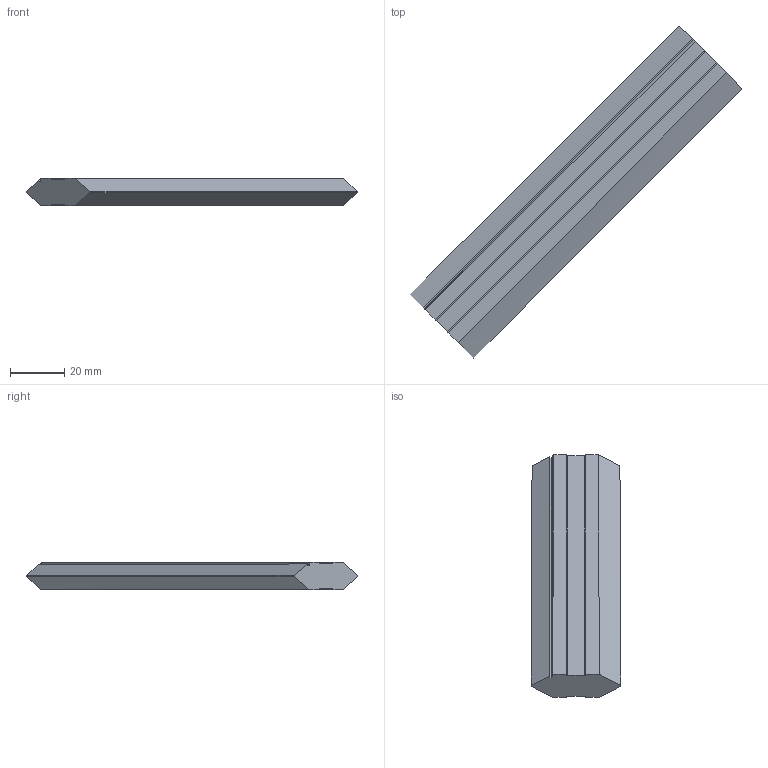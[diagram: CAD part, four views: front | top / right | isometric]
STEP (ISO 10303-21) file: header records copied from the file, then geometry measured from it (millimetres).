
FILE_DESCRIPTION(/* description */ ('STEP AP242 Edition 2','CAx-IF Rec.Pracs.---Representation and Presentation of Product Manufacturing Information (PMI)---4.0---2014-10-13','CAx-IF Rec.Pracs.---3D Tessellated Geometry---0.4---2014-09-14','2;1','CAx-IF Rec.Pracs.---User Defined Attributes---1.5---2016-08-15'),/* implementation_level */ '2;1');
FILE_NAME(/* name */ 'Part Studio 2 - Blade middle part 2',/* time_stamp */ '2026-02-06T19:17:58Z',/* author */ (''),/* organization */ (''),/* preprocessor_version */ 'ST-DEVELOPER v20',/* originating_system */ 'ONSHAPE BY PTC INC, 1.210',/* authorisation */ ' ');
FILE_SCHEMA (('AP242_MANAGED_MODEL_BASED_3D_ENGINEERING_MIM_LF { 1 0 10303 442 3 1 4 }'));
Length unit declared in the file: metre
Products named in the file (1): Blade middle part 2
Bounding box: 122.12 x 122.12 x 10.26 mm (x, y, z)
Volume: 16482.3 mm3; surface area: 18654.5 mm2
Topology: 1 solids, 1 shells, 40 faces, 111 edges, 74 vertices
Faces by surface type: plane 18, bspline 11, cylinder 11
Entity records: 1641 total; most frequent: CARTESIAN_POINT 681, ORIENTED_EDGE 222, DIRECTION 151, EDGE_CURVE 111, VERTEX_POINT 74, LINE 55, VECTOR 55, AXIS2_PLACEMENT_3D 48
